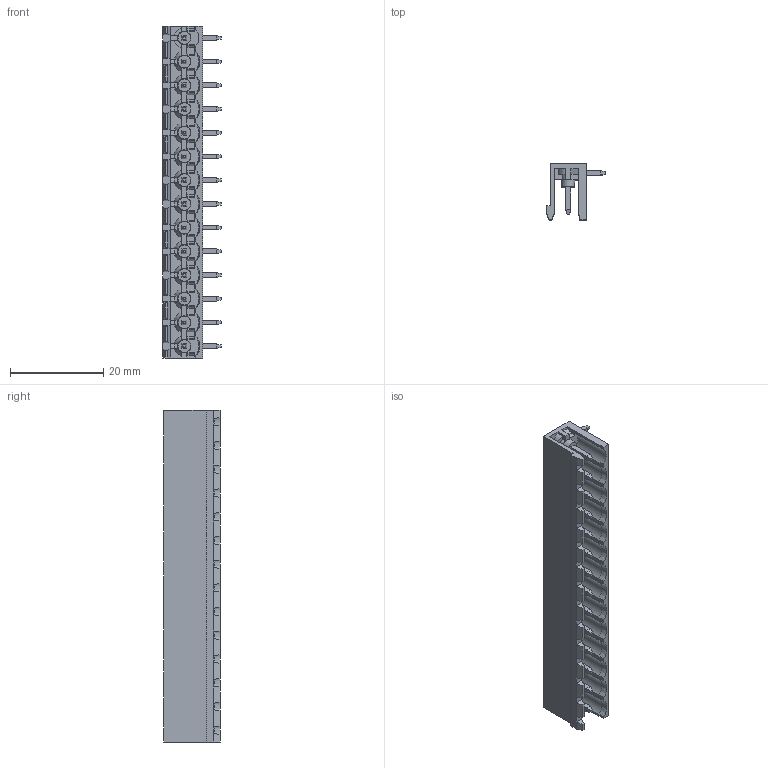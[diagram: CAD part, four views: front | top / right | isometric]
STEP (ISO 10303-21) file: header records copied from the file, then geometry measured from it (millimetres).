
FILE_DESCRIPTION (( 'STEP AP203' ), '1' );
FILE_NAME ('BR8MN1-14.STEP', '2020-03-18T03:17:20', ( '' ), ( '' ), 'SwSTEP 2.0', 'SolidWorks 2019', '' );
FILE_SCHEMA (( 'CONFIG_CONTROL_DESIGN' ));
Length unit declared in the file: millimetre
Products named in the file (1): BR8MN1-14
Bounding box: 12.5 x 12 x 71.12 mm (x, y, z)
Volume: 2715.8 mm3; surface area: 6065.4 mm2
Topology: 1 solids, 1 shells, 1181 faces, 3078 edges, 1899 vertices
Faces by surface type: plane 1015, cylinder 71, cone 67, sphere 28
Entity records: 35108 total; most frequent: CARTESIAN_POINT 6698, ORIENTED_EDGE 6044, DIRECTION 5533, EDGE_CURVE 3022, VECTOR 2581, LINE 2581, VERTEX_POINT 1871, AXIS2_PLACEMENT_3D 1476
